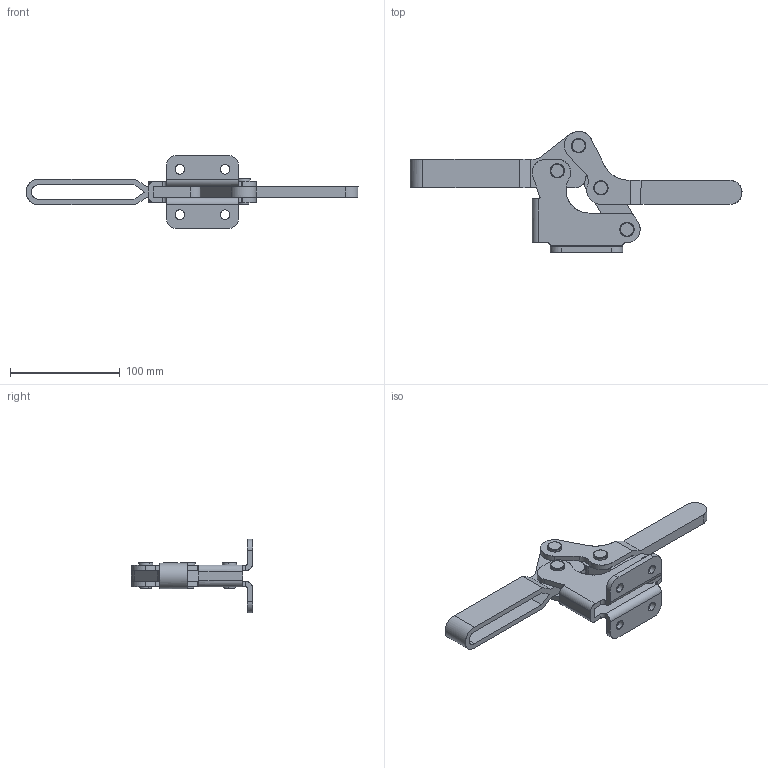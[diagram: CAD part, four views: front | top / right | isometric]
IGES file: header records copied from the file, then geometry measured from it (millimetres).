
Start section: Comment
Global section: file name: 24502b.igs; native system:  By Spatial Corp.; preprocessor: XPlus PS/IGES 3.0; author: Author; organization: Title; date: 20050217.084024; units: inch
Bounding box: 302.92 x 110.44 x 67 mm (x, y, z)
Surface area: 76616.2 mm2 (no closed solid volume)
Topology: 0 solids, 0 shells, 230 faces, 1148 edges, 1148 vertices
Faces by surface type: revolution 146, extrusion 84
